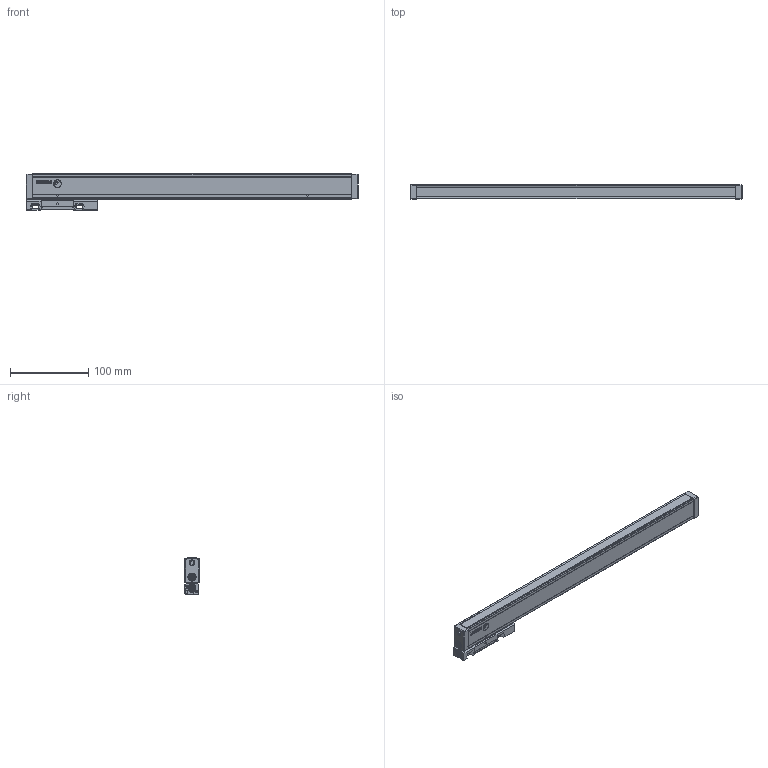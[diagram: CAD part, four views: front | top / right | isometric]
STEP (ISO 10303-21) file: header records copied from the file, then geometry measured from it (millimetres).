
FILE_DESCRIPTION(('Creo Elements/Direct Modeling STEP Export'),'2;1');
FILE_NAME('REGLA_SV3-320.stp','2020-10-30T12:03:28',(''),(''),'Creo Elements/Direct Modeling STEP processor for AP214 (Solid Model)','Creo Elements/Direct Modeling 19.0G 27-Nov-2017 (C) Parametric Technology GmbH','');
FILE_SCHEMA(('AUTOMOTIVE_DESIGN { 1 0 10303 214 1 1 1 1 }'));
Length unit declared in the file: millimetre
Products named in the file (4): PERFIL_REGLA_SV3-320; CABEZA_RANURADA_REGLA_S3
Assembly tree (2 placements, depth 2):
  PERFIL_REGLA_SV3-320
    PERFIL_REGLA_SV3-320
  CABEZA_RANURADA_REGLA_S3
    CABEZA_RANURADA_REGLA_S3
Bounding box: 425 x 18.3 x 46.2 mm (x, y, z)
Volume: 247404.1 mm3; surface area: 63000.1 mm2
Topology: 2 solids, 25 shells, 1508 faces, 4919 edges, 3517 vertices
Faces by surface type: plane 988, cylinder 369, cone 134, bspline 9, torus 8
Entity records: 63928 total; most frequent: CARTESIAN_POINT 12651, ORIENTED_EDGE 9818, DIRECTION 7796, EDGE_CURVE 4907, VECTOR 3690, LINE 3690, VERTEX_POINT 3517, AXIS2_PLACEMENT_3D 2053
